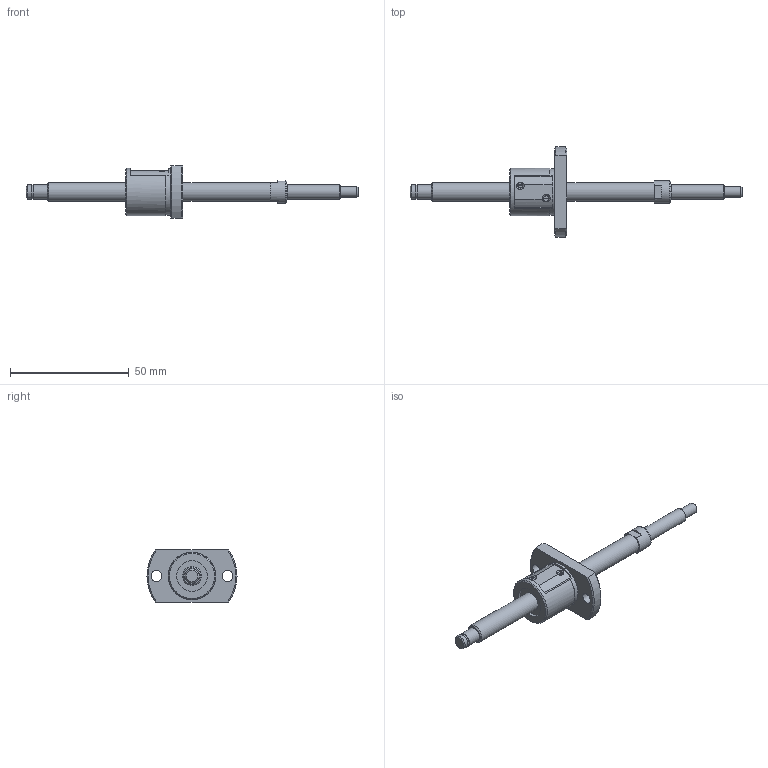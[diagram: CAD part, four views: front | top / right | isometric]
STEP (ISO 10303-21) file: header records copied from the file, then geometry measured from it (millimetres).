
FILE_DESCRIPTION(/* description */ ('STEP AP214'),/* implementation_level */ '2;1');
FILE_NAME(/* name */ 'SG0802-090R140C3B0X(33)',/* time_stamp */ '2026-07-21T16:44:27+02:00',/* author */ ('License CC BY-ND 4.0'),/* organization */ ('CADENAS'),/* preprocessor_version */ 'ST-DEVELOPER v20',/* originating_system */ 'PARTsolutions',/* authorisation */ ' ');
FILE_SCHEMA (('AUTOMOTIVE_DESIGN {1 0 10303 214 3 1 1}'));
Length unit declared in the file: millimetre
Products named in the file (3): SG0802-090R140C3B0X(33); SG0802-90R140C3B_shaft; SG0802_nut
Assembly tree (2 placements, depth 2):
  SG0802-090R140C3B0X(33)
    SG0802-90R140C3B_shaft
    SG0802_nut
Bounding box: 140 x 38 x 22 mm (x, y, z)
Volume: 14381 mm3; surface area: 7310.1 mm2
Topology: 2 solids, 2 shells, 79 faces, 187 edges, 122 vertices
Faces by surface type: plane 38, cylinder 26, cone 14, torus 1
Full cylindrical faces by diameter (mm): 4.5 x3, 5.7 x1, 6 x3, 8 x2, 9.5 x1, 13 x2, 19.7 x1, 20 x1
Entity records: 2197 total; most frequent: CARTESIAN_POINT 408, DIRECTION 374, ORIENTED_EDGE 306, AXIS2_PLACEMENT_3D 157, EDGE_CURVE 153, EDGE_LOOP 120, FACE_BOUND 120, VERTEX_POINT 113
